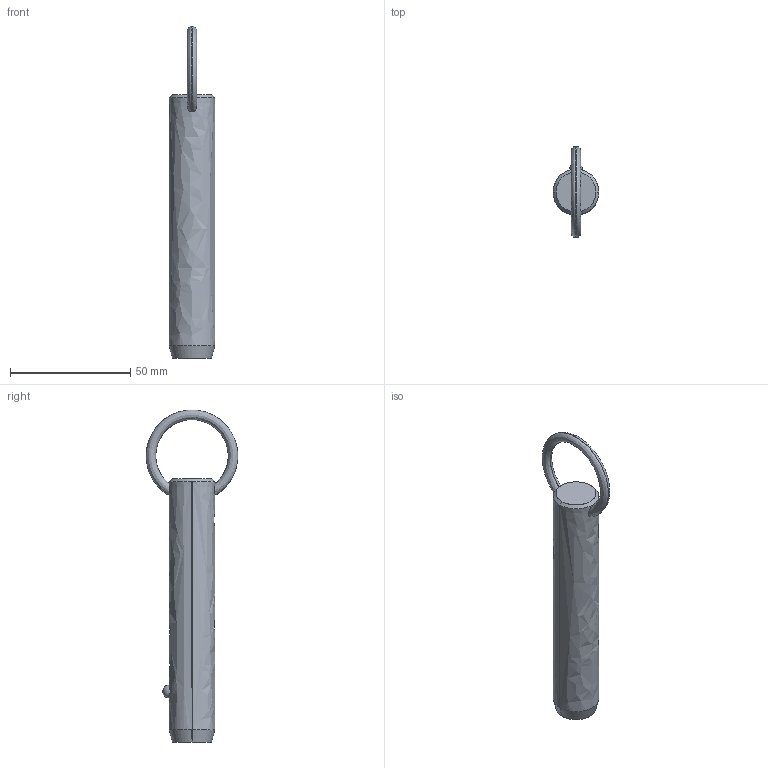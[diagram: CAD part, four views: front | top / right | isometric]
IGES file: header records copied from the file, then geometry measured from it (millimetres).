
Start section: SolidWorks IGES file using analytic representation for surfaces
Global section: file name: C:\Users\liam_\OneDrive\Documents\WORK\Work for WixRoyd\Job Files\J-00019 - Matt Davis CAD Checking\04. CAD Drawings\automotion20190605\P1250.2_v2\P1250.2_v2_20190729_IGES\P1250.075-300.igs; native system: SolidWorks 2017; preprocessor: SolidWorks 2017; author: liam_; date: 190729.235130; units: millimetre
Bounding box: 19 x 38.09 x 137.99 mm (x, y, z)
Surface area: 8062.9 mm2 (no closed solid volume)
Topology: 0 solids, 0 shells, 12 faces, 294 edges, 292 vertices
Faces by surface type: revolution 8, bspline 4
